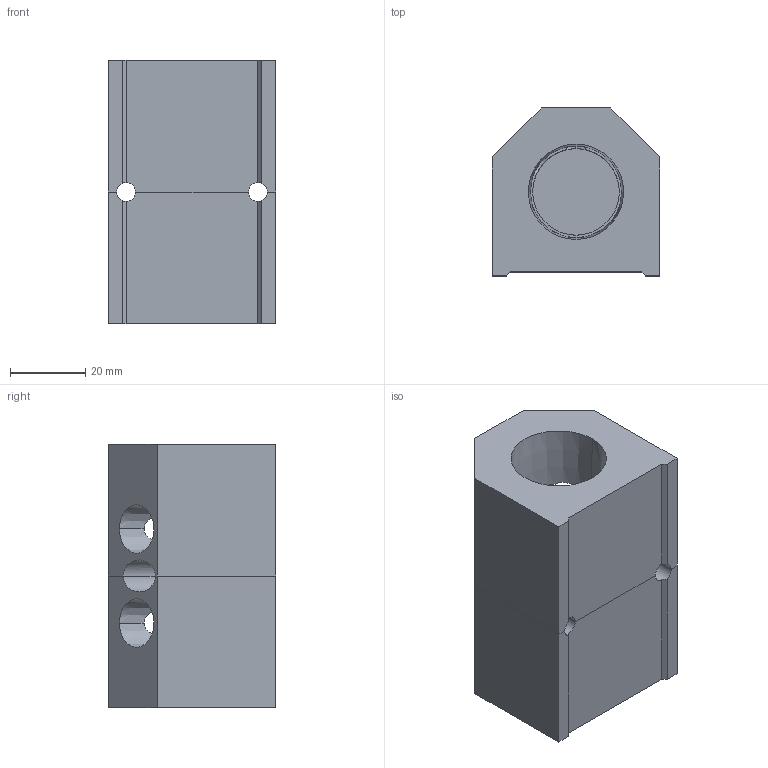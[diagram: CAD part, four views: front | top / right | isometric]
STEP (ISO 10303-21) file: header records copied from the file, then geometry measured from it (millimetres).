
FILE_DESCRIPTION (( 'STEP AP214' ), '1' );
FILE_NAME ('ALM2BCD-N4N12-70RB.step', '2022-02-06T14:18:31', ( '' ), ( '' ), 'SwSTEP 2.0', 'SolidWorks 2020', '' );
FILE_SCHEMA (( 'AUTOMOTIVE_DESIGN' ));
Length unit declared in the file: millimetre
Products named in the file (1): ALM2BCD-N4N12-70RB
Bounding box: 44.5 x 44.5 x 70 mm (x, y, z)
Volume: 83703.5 mm3; surface area: 25035.7 mm2
Topology: 2 solids, 2 shells, 355 faces, 956 edges, 634 vertices
Faces by surface type: plane 235, bspline 64, cylinder 30, cone 26
Entity records: 19106 total; most frequent: CARTESIAN_POINT 7412, ORIENTED_EDGE 1912, DIRECTION 1410, EDGE_CURVE 956, LINE 666, VECTOR 666, VERTEX_POINT 634, EDGE_LOOP 396
